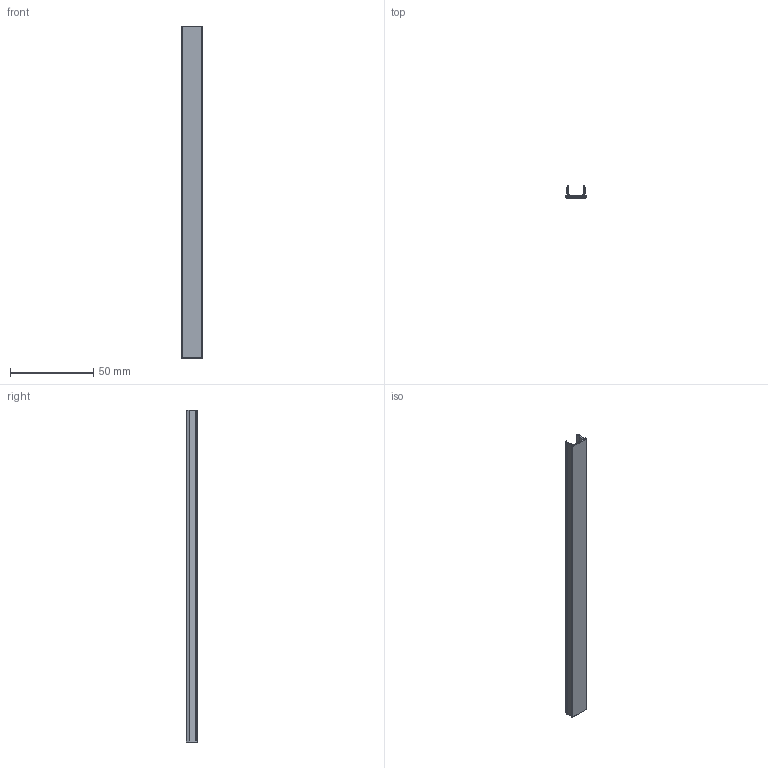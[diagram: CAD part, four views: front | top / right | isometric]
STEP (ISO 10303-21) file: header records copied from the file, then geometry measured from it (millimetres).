
FILE_DESCRIPTION (( 'STEP AP214' ), '1' );
FILE_NAME ('4040.STEP', '2015-05-11T07:25:06', ( '' ), ( '' ), 'SwSTEP 2.0', 'SolidWorks 2014', '' );
FILE_SCHEMA (( 'AUTOMOTIVE_DESIGN' ));
Length unit declared in the file: millimetre
Products named in the file (1): 4040
Bounding box: 12.2 x 7 x 200 mm (x, y, z)
Volume: 4816.8 mm3; surface area: 10005.4 mm2
Topology: 1 solids, 1 shells, 76 faces, 187 edges, 109 vertices
Faces by surface type: cylinder 37, plane 18, torus 17, bspline 2, sphere 2
Entity records: 2279 total; most frequent: CARTESIAN_POINT 433, DIRECTION 419, ORIENTED_EDGE 366, EDGE_CURVE 183, AXIS2_PLACEMENT_3D 167, VERTEX_POINT 109, CIRCLE 92, LINE 85
